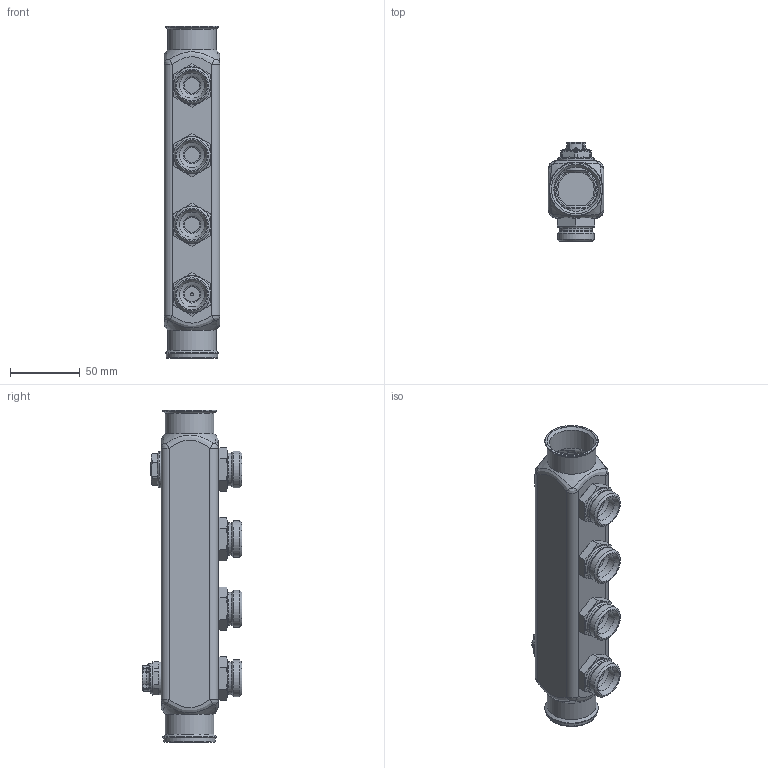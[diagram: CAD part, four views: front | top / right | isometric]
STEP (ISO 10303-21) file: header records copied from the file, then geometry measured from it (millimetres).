
FILE_DESCRIPTION(('STEP AP203'), '1');
FILE_NAME('VTc.505.SQ.060504', '2026-02-20T10:33:51', ('verevichevva'), ('Vesta'), 'C3D Converter', 'C3D Toolkit', '');
FILE_SCHEMA(('CONFIG_CONTROL_DESIGN'));
Length unit declared in the file: millimetre
Products named in the file (1): ВР.622621.185.000 СБ
Bounding box: 40 x 71.6 x 238.5 mm (x, y, z)
Volume: 99671.4 mm3; surface area: 101110 mm2
Topology: 17 solids, 17 shells, 812 faces, 1979 edges, 1233 vertices
Faces by surface type: plane 313, cone 130, cylinder 120, extrusion 118, bspline 72, torus 59
Full cylindrical faces by diameter (mm): 1.6 x1, 2.3 x1, 3.4 x1, 4.134 x1, 5 x1, 5.3 x1, 6.3 x2, 9.6 x1, 10.2 x1, 11 x4, 12.5 x4, 13 x1, 14 x1, 15.7 x1, 18 x5, 18.1 x4, 18.5 x1, 19 x6, 19.5 x2, 20 x1, 20.955 x6, 22 x1, 22.2 x6, 23 x1, 23.5 x4, 24 x1, 25.5 x1, 26 x1, 26.441 x4, 28 x1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
Entity records: 33193 total; most frequent: CARTESIAN_POINT 16183, ORIENTED_EDGE 3566, DIRECTION 2961, EDGE_CURVE 1783, VERTEX_POINT 1217, AXIS2_PLACEMENT_3D 1056, EDGE_LOOP 1038, VECTOR 849
